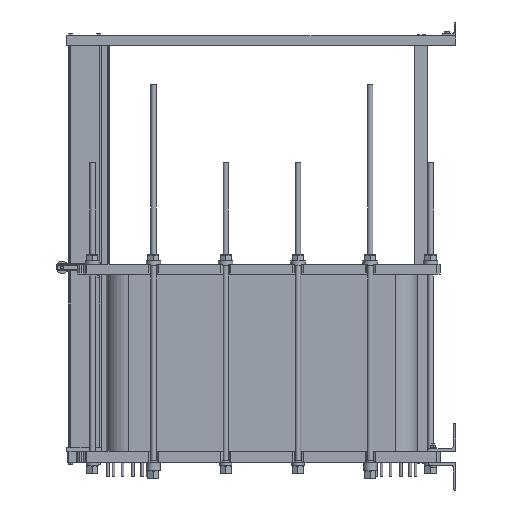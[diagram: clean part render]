
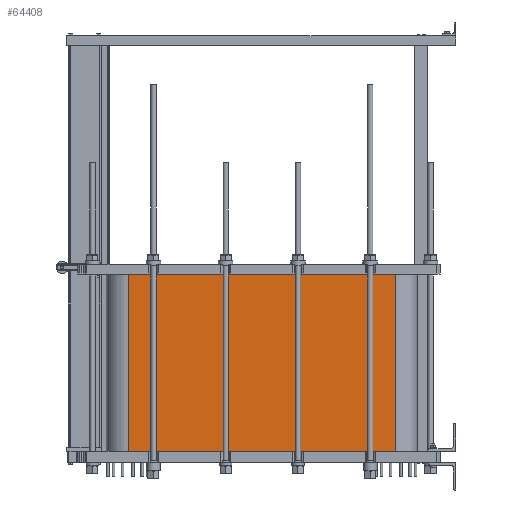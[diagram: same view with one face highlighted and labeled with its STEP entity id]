
A CAD part, left-side view. The second image highlights one B-rep face of the part: STEP entity #64408.
In plain terms, the highlighted planar face has unit normal (-1, 0, 0).
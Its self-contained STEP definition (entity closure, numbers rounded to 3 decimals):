
#35049=CARTESIAN_POINT('',(-375.0,-967.0,0.0));
#35050=VERTEX_POINT('',#35049);
#35058=CARTESIAN_POINT('',(-375.,967.0,0.0));
#35059=VERTEX_POINT('',#35058);
#35060=CARTESIAN_POINT('',(-375.0,-967.0,0.0));
#35061=DIRECTION('',(0.0,1.0,0.0));
#35062=VECTOR('',#35061,1934.0);
#35063=LINE('',#35060,#35062);
#35064=EDGE_CURVE('',#35050,#35059,#35063,.T.);
#64323=CARTESIAN_POINT('',(-375.,967.0,1282.5));
#64324=VERTEX_POINT('',#64323);
#64334=CARTESIAN_POINT('',(-375.,967.0,0.0));
#64335=DIRECTION('',(0.0,0.0,1.0));
#64336=VECTOR('',#64335,1282.5);
#64337=LINE('',#64334,#64336);
#64338=EDGE_CURVE('',#35059,#64324,#64337,.T.);
#64372=CARTESIAN_POINT('',(-375.0,-967.0,1282.5));
#64373=VERTEX_POINT('',#64372);
#64381=CARTESIAN_POINT('',(-375.0,-967.0,0.0));
#64382=DIRECTION('',(0.0,0.0,1.0));
#64383=VECTOR('',#64382,1282.5);
#64384=LINE('',#64381,#64383);
#64385=EDGE_CURVE('',#35050,#64373,#64384,.T.);
#64392=CARTESIAN_POINT('',(-375.0,-967.0,0.0));
#64393=DIRECTION('',(-1.0,0.0,0.0));
#64394=DIRECTION('',(0.0,0.0,1.0));
#64395=AXIS2_PLACEMENT_3D('',#64392,#64393,#64394);
#64396=PLANE('',#64395);
#64397=CARTESIAN_POINT('',(-375.,967.0,1282.5));
#64398=DIRECTION('',(0.0,-1.0,0.0));
#64399=VECTOR('',#64398,1934.0);
#64400=LINE('',#64397,#64399);
#64401=EDGE_CURVE('',#64324,#64373,#64400,.T.);
#64402=ORIENTED_EDGE('',*,*,#64401,.F.);
#64403=ORIENTED_EDGE('',*,*,#64338,.F.);
#64404=ORIENTED_EDGE('',*,*,#35064,.F.);
#64405=ORIENTED_EDGE('',*,*,#64385,.T.);
#64406=EDGE_LOOP('',(#64402,#64403,#64404,#64405));
#64407=FACE_OUTER_BOUND('',#64406,.T.);
#64408=ADVANCED_FACE('',(#64407),#64396,.T.);
